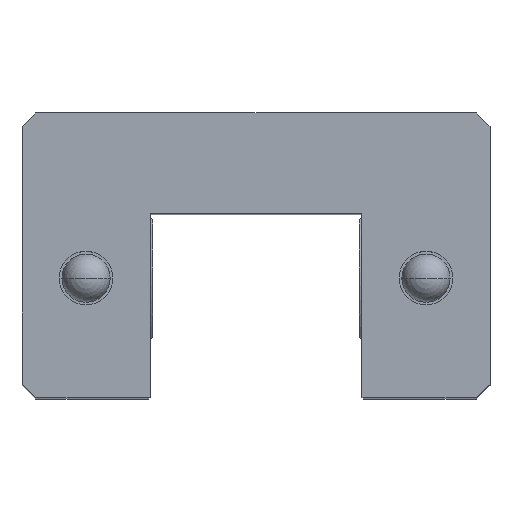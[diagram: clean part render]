
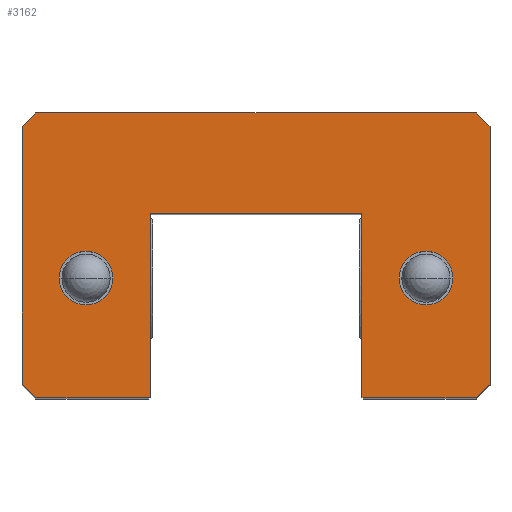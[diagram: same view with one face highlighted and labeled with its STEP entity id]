
A CAD part, top view. The second image highlights one B-rep face of the part: STEP entity #3162.
In plain terms, the highlighted planar face has unit normal (0, 0, 1).
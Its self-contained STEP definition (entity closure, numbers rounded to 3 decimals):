
#1528 = VERTEX_POINT( '', #4542 );
#1610 = EDGE_CURVE( '', #2450, #2578, #4631, .T. );
#1744 = VERTEX_POINT( '', #4780 );
#1746 = EDGE_CURVE( '', #3074, #4362, #4782, .T. );
#1782 = EDGE_CURVE( '', #3168, #1744, #4826, .T. );
#1804 = EDGE_CURVE( '', #1528, #3892, #4851, .T. );
#1896 = EDGE_CURVE( '', #2738, #3896, #4968, .T. );
#1904 = EDGE_CURVE( '', #2716, #3786, #4976, .T. );
#2038 = EDGE_CURVE( '', #3892, #1528, #5130, .T. );
#2224 = EDGE_CURVE( '', #3230, #3600, #5335, .T. );
#2450 = VERTEX_POINT( '', #5586 );
#2482 = VERTEX_POINT( '', #5621 );
#2578 = VERTEX_POINT( '', #5730 );
#2716 = VERTEX_POINT( '', #5882 );
#2738 = VERTEX_POINT( '', #5911 );
#2908 = VERTEX_POINT( '', #6104 );
#3048 = EDGE_CURVE( '', #3600, #3074, #6259, .T. );
#3074 = VERTEX_POINT( '', #6288 );
#3162 = ADVANCED_FACE( '', ( #6384, #6385, #6386 ), #6387, .T. );
#3168 = VERTEX_POINT( '', #6393 );
#3190 = EDGE_CURVE( '', #3266, #3230, #6417, .T. );
#3230 = VERTEX_POINT( '', #6461 );
#3266 = VERTEX_POINT( '', #6500 );
#3310 = EDGE_CURVE( '', #4362, #2482, #6547, .T. );
#3394 = EDGE_CURVE( '', #3896, #2908, #6642, .T. );
#3600 = VERTEX_POINT( '', #6875 );
#3724 = EDGE_CURVE( '', #2908, #2450, #7012, .T. );
#3776 = VERTEX_POINT( '', #7072 );
#3786 = VERTEX_POINT( '', #7084 );
#3892 = VERTEX_POINT( '', #7197 );
#3896 = VERTEX_POINT( '', #7201 );
#4122 = EDGE_CURVE( '', #2482, #3168, #7460, .T. );
#4182 = EDGE_CURVE( '', #1744, #3776, #7530, .T. );
#4194 = EDGE_CURVE( '', #3786, #2716, #7543, .T. );
#4362 = VERTEX_POINT( '', #7722 );
#4434 = EDGE_CURVE( '', #3776, #2738, #7801, .T. );
#4458 = EDGE_CURVE( '', #2578, #3266, #7828, .T. );
#4542 = CARTESIAN_POINT( '', ( -12.35, 13.95, 0. ) );
#4631 = LINE( '', #8045, #8046 );
#4780 = CARTESIAN_POINT( '', ( -17., 4.3, 0. ) );
#4782 = LINE( '', #8259, #8260 );
#4826 = LINE( '', #8316, #8317 );
#4851 = CIRCLE( '', #8353, 1.95 );
#4968 = LINE( '', #8503, #8504 );
#4976 = CIRCLE( '', #8515, 1.95 );
#5130 = CIRCLE( '', #8719, 1.95 );
#5335 = LINE( '', #9000, #9001 );
#5586 = CARTESIAN_POINT( '', ( 7.7, 16.7, 0. ) );
#5621 = CARTESIAN_POINT( '', ( -16., 24., 0. ) );
#5730 = CARTESIAN_POINT( '', ( 7.7, 3.4, 0. ) );
#5882 = CARTESIAN_POINT( '', ( 12.35, 13.95, 0. ) );
#5911 = CARTESIAN_POINT( '', ( -7.8, 3.3, 0. ) );
#6104 = CARTESIAN_POINT( '', ( -7.7, 16.7, 0. ) );
#6259 = LINE( '', #10259, #10260 );
#6288 = CARTESIAN_POINT( '', ( 17., 23., 0. ) );
#6384 = FACE_BOUND( '', #10428, .T. );
#6385 = FACE_BOUND( '', #10429, .T. );
#6386 = FACE_OUTER_BOUND( '', #10430, .T. );
#6387 = PLANE( '', #10431 );
#6393 = CARTESIAN_POINT( '', ( -17., 23., 0. ) );
#6417 = LINE( '', #10471, #10472 );
#6461 = CARTESIAN_POINT( '', ( 16., 3.3, 0. ) );
#6500 = CARTESIAN_POINT( '', ( 7.8, 3.3, 0. ) );
#6547 = LINE( '', #10652, #10653 );
#6642 = LINE( '', #10781, #10782 );
#6875 = CARTESIAN_POINT( '', ( 17., 4.3, 0. ) );
#7012 = LINE( '', #11276, #11277 );
#7072 = CARTESIAN_POINT( '', ( -16., 3.3, 0. ) );
#7084 = CARTESIAN_POINT( '', ( 12.35, 10.05, 0. ) );
#7197 = CARTESIAN_POINT( '', ( -12.35, 10.05, 0. ) );
#7201 = CARTESIAN_POINT( '', ( -7.7, 3.4, 0. ) );
#7460 = LINE( '', #11873, #11874 );
#7530 = LINE( '', #11964, #11965 );
#7543 = CIRCLE( '', #11981, 1.95 );
#7722 = CARTESIAN_POINT( '', ( 16., 24., 0. ) );
#7801 = LINE( '', #12351, #12352 );
#7828 = LINE( '', #12389, #12390 );
#8045 = CARTESIAN_POINT( '', ( 7.7, 16.7, 0. ) );
#8046 = VECTOR( '', #12591, 1. );
#8259 = CARTESIAN_POINT( '', ( 17., 23., 0. ) );
#8260 = VECTOR( '', #12767, 1. );
#8316 = CARTESIAN_POINT( '', ( -17., 23., 0. ) );
#8317 = VECTOR( '', #12833, 1. );
#8353 = AXIS2_PLACEMENT_3D( '', #12862, #12863, #12864 );
#8503 = CARTESIAN_POINT( '', ( -7.8, 3.3, 0. ) );
#8504 = VECTOR( '', #13024, 1. );
#8515 = AXIS2_PLACEMENT_3D( '', #13026, #13027, #13028 );
#8719 = AXIS2_PLACEMENT_3D( '', #13214, #13215, #13216 );
#9000 = CARTESIAN_POINT( '', ( 16., 3.3, 0. ) );
#9001 = VECTOR( '', #13435, 1. );
#10259 = CARTESIAN_POINT( '', ( 17., 4.3, 0. ) );
#10260 = VECTOR( '', #14515, 1. );
#10428 = EDGE_LOOP( '', ( #14646, #14647 ) );
#10429 = EDGE_LOOP( '', ( #14648, #14649 ) );
#10430 = EDGE_LOOP( '', ( #14650, #14651, #14652, #14653, #14654, #14655, #14656, #14657, #14658, #14659, #14660, #14661, #14662, #14663 ) );
#10431 = AXIS2_PLACEMENT_3D( '', #14664, #14665, #14666 );
#10471 = CARTESIAN_POINT( '', ( 7.8, 3.3, 0. ) );
#10472 = VECTOR( '', #14695, 1. );
#10652 = CARTESIAN_POINT( '', ( 16., 24., 0. ) );
#10653 = VECTOR( '', #14813, 1. );
#10781 = CARTESIAN_POINT( '', ( -7.7, 3.4, 0. ) );
#10782 = VECTOR( '', #14942, 1. );
#11276 = CARTESIAN_POINT( '', ( -7.7, 16.7, 0. ) );
#11277 = VECTOR( '', #15347, 1. );
#11873 = CARTESIAN_POINT( '', ( -16., 24., 0. ) );
#11874 = VECTOR( '', #15864, 1. );
#11964 = CARTESIAN_POINT( '', ( -17., 4.3, 0. ) );
#11965 = VECTOR( '', #15950, 1. );
#11981 = AXIS2_PLACEMENT_3D( '', #15960, #15961, #15962 );
#12351 = CARTESIAN_POINT( '', ( -16., 3.3, 0. ) );
#12352 = VECTOR( '', #16183, 1. );
#12389 = CARTESIAN_POINT( '', ( 7.7, 3.4, 0. ) );
#12390 = VECTOR( '', #16213, 1. );
#12591 = DIRECTION( '', ( 0., -1., 0. ) );
#12767 = DIRECTION( '', ( -0.707, 0.707, 0. ) );
#12833 = DIRECTION( '', ( 0., -1., 0. ) );
#12862 = CARTESIAN_POINT( '', ( -12.35, 12., 0. ) );
#12863 = DIRECTION( '', ( 0., 0., -1. ) );
#12864 = DIRECTION( '', ( 0., -1., 0. ) );
#13024 = DIRECTION( '', ( 0.707, 0.707, 0. ) );
#13026 = CARTESIAN_POINT( '', ( 12.35, 12., 0. ) );
#13027 = DIRECTION( '', ( 0., 0., -1. ) );
#13028 = DIRECTION( '', ( 0., -1., 0. ) );
#13214 = CARTESIAN_POINT( '', ( -12.35, 12., 0. ) );
#13215 = DIRECTION( '', ( 0., 0., -1. ) );
#13216 = DIRECTION( '', ( 0., -1., 0. ) );
#13435 = DIRECTION( '', ( 0.707, 0.707, 0. ) );
#14515 = DIRECTION( '', ( 0., 1., 0. ) );
#14646 = ORIENTED_EDGE( '', *, *, #1904, .T. );
#14647 = ORIENTED_EDGE( '', *, *, #4194, .T. );
#14648 = ORIENTED_EDGE( '', *, *, #1804, .T. );
#14649 = ORIENTED_EDGE( '', *, *, #2038, .T. );
#14650 = ORIENTED_EDGE( '', *, *, #1782, .T. );
#14651 = ORIENTED_EDGE( '', *, *, #4182, .T. );
#14652 = ORIENTED_EDGE( '', *, *, #4434, .T. );
#14653 = ORIENTED_EDGE( '', *, *, #1896, .T. );
#14654 = ORIENTED_EDGE( '', *, *, #3394, .T. );
#14655 = ORIENTED_EDGE( '', *, *, #3724, .T. );
#14656 = ORIENTED_EDGE( '', *, *, #1610, .T. );
#14657 = ORIENTED_EDGE( '', *, *, #4458, .T. );
#14658 = ORIENTED_EDGE( '', *, *, #3190, .T. );
#14659 = ORIENTED_EDGE( '', *, *, #2224, .T. );
#14660 = ORIENTED_EDGE( '', *, *, #3048, .T. );
#14661 = ORIENTED_EDGE( '', *, *, #1746, .T. );
#14662 = ORIENTED_EDGE( '', *, *, #3310, .T. );
#14663 = ORIENTED_EDGE( '', *, *, #4122, .T. );
#14664 = CARTESIAN_POINT( '', ( 0., 0., 0. ) );
#14665 = DIRECTION( '', ( 0., 0., 1. ) );
#14666 = DIRECTION( '', ( 1., 0., 0. ) );
#14695 = DIRECTION( '', ( 1., 0., 0. ) );
#14813 = DIRECTION( '', ( -1., 0., 0. ) );
#14942 = DIRECTION( '', ( 0., 1., 0. ) );
#15347 = DIRECTION( '', ( 1., 0., 0. ) );
#15864 = DIRECTION( '', ( -0.707, -0.707, 0. ) );
#15950 = DIRECTION( '', ( 0.707, -0.707, 0. ) );
#15960 = CARTESIAN_POINT( '', ( 12.35, 12., 0. ) );
#15961 = DIRECTION( '', ( 0., 0., -1. ) );
#15962 = DIRECTION( '', ( 0., -1., 0. ) );
#16183 = DIRECTION( '', ( 1., 0., 0. ) );
#16213 = DIRECTION( '', ( 0.707, -0.707, 0. ) );
